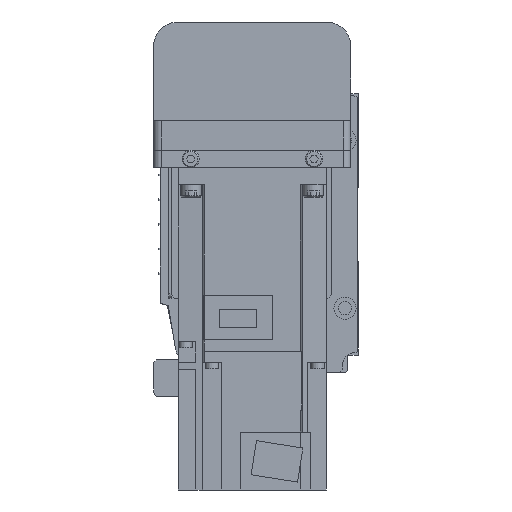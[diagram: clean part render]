
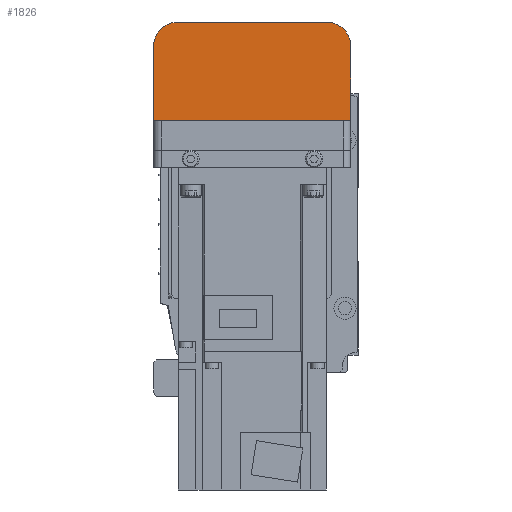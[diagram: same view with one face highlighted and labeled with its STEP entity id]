
A CAD part, left-side view. The second image highlights one B-rep face of the part: STEP entity #1826.
In plain terms, the highlighted planar face has unit normal (-1, 0, 0).
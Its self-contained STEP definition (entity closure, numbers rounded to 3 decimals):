
#1826 = ADVANCED_FACE( '', ( #3963 ), #3964, .F. );
#3963 = FACE_OUTER_BOUND( '', #6379, .T. );
#3964 = PLANE( '', #6380 );
#6379 = EDGE_LOOP( '', ( #11274, #11275, #11276, #11277, #11278, #11279 ) );
#6380 = AXIS2_PLACEMENT_3D( '', #11280, #11281, #11282 );
#11274 = ORIENTED_EDGE( '', *, *, #13958, .F. );
#11275 = ORIENTED_EDGE( '', *, *, #14687, .F. );
#11276 = ORIENTED_EDGE( '', *, *, #15643, .F. );
#11277 = ORIENTED_EDGE( '', *, *, #14919, .F. );
#11278 = ORIENTED_EDGE( '', *, *, #15644, .F. );
#11279 = ORIENTED_EDGE( '', *, *, #15645, .F. );
#11280 = CARTESIAN_POINT( '', ( -192., 37., 7. ) );
#11281 = DIRECTION( '', ( 1., 0., 0. ) );
#11282 = DIRECTION( '', ( 0., 0., -1. ) );
#13958 = EDGE_CURVE( '', #16679, #16681, #16682, .T. );
#14687 = EDGE_CURVE( '', #17901, #16679, #17903, .T. );
#14919 = EDGE_CURVE( '', #18253, #18255, #18256, .T. );
#15643 = EDGE_CURVE( '', #18255, #17901, #19253, .T. );
#15644 = EDGE_CURVE( '', #19254, #18253, #19255, .T. );
#15645 = EDGE_CURVE( '', #16681, #19254, #19256, .T. );
#16679 = VERTEX_POINT( '', #20515 );
#16681 = VERTEX_POINT( '', #20518 );
#16682 = LINE( '', #20519, #20520 );
#17901 = VERTEX_POINT( '', #22168 );
#17903 = LINE( '', #22171, #22172 );
#18253 = VERTEX_POINT( '', #22648 );
#18255 = VERTEX_POINT( '', #22651 );
#18256 = LINE( '', #22652, #22653 );
#19253 = CIRCLE( '', #23980, 10. );
#19254 = VERTEX_POINT( '', #23981 );
#19255 = CIRCLE( '', #23982, 10. );
#19256 = LINE( '', #23983, #23984 );
#20515 = CARTESIAN_POINT( '', ( -192., 40., -12.1 ) );
#20518 = CARTESIAN_POINT( '', ( -192., -40., -12.1 ) );
#20519 = CARTESIAN_POINT( '', ( -192., 50., -12.1 ) );
#20520 = VECTOR( '', #25189, 1000. );
#22168 = CARTESIAN_POINT( '', ( -192., 40., -42. ) );
#22171 = CARTESIAN_POINT( '', ( -192., 40., -42. ) );
#22172 = VECTOR( '', #26061, 1000. );
#22648 = CARTESIAN_POINT( '', ( -192., -30., -52. ) );
#22651 = CARTESIAN_POINT( '', ( -192., 30., -52. ) );
#22652 = CARTESIAN_POINT( '', ( -192., -30., -52. ) );
#22653 = VECTOR( '', #26354, 1000. );
#23980 = AXIS2_PLACEMENT_3D( '', #27195, #27196, #27197 );
#23981 = CARTESIAN_POINT( '', ( -192., -40., -42. ) );
#23982 = AXIS2_PLACEMENT_3D( '', #27198, #27199, #27200 );
#23983 = CARTESIAN_POINT( '', ( -192., -40., -12.1 ) );
#23984 = VECTOR( '', #27201, 1000. );
#25189 = DIRECTION( '', ( 0., -1., 0. ) );
#26061 = DIRECTION( '', ( 0., 0., 1. ) );
#26354 = DIRECTION( '', ( 0., 1., 0. ) );
#27195 = CARTESIAN_POINT( '', ( -192., 30., -42. ) );
#27196 = DIRECTION( '', ( 1., 0., 0. ) );
#27197 = DIRECTION( '', ( 0., 0., -1. ) );
#27198 = CARTESIAN_POINT( '', ( -192., -30., -42. ) );
#27199 = DIRECTION( '', ( 1., 0., 0. ) );
#27200 = DIRECTION( '', ( 0., 0., -1. ) );
#27201 = DIRECTION( '', ( 0., 0., -1. ) );
